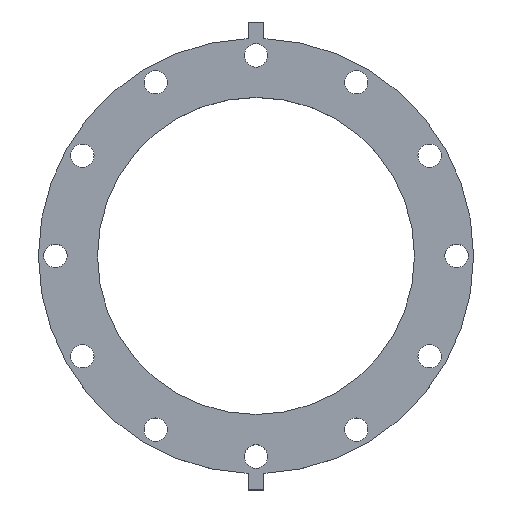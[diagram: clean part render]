
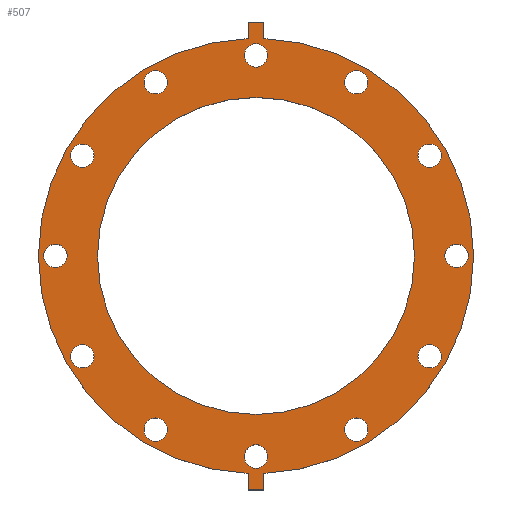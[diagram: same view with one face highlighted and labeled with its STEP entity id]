
A CAD part, top view. The second image highlights one B-rep face of the part: STEP entity #507.
In plain terms, the highlighted planar face has unit normal (0, 0, 1).
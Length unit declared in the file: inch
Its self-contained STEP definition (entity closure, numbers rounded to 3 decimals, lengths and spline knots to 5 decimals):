
#14=FACE_BOUND('',#93,.T.);
#15=FACE_BOUND('',#94,.T.);
#16=FACE_BOUND('',#95,.T.);
#17=FACE_BOUND('',#96,.T.);
#18=FACE_BOUND('',#97,.T.);
#19=FACE_BOUND('',#98,.T.);
#20=FACE_BOUND('',#99,.T.);
#21=FACE_BOUND('',#100,.T.);
#22=FACE_BOUND('',#101,.T.);
#23=FACE_BOUND('',#102,.T.);
#24=FACE_BOUND('',#103,.T.);
#25=FACE_BOUND('',#104,.T.);
#26=FACE_BOUND('',#105,.T.);
#46=PLANE('',#580);
#69=FACE_OUTER_BOUND('',#92,.T.);
#92=EDGE_LOOP('',(#405,#406,#407,#408,#409,#410,#411,#412));
#93=EDGE_LOOP('',(#413));
#94=EDGE_LOOP('',(#414));
#95=EDGE_LOOP('',(#415));
#96=EDGE_LOOP('',(#416));
#97=EDGE_LOOP('',(#417));
#98=EDGE_LOOP('',(#418));
#99=EDGE_LOOP('',(#419));
#100=EDGE_LOOP('',(#420));
#101=EDGE_LOOP('',(#421));
#102=EDGE_LOOP('',(#422));
#103=EDGE_LOOP('',(#423));
#104=EDGE_LOOP('',(#424));
#105=EDGE_LOOP('',(#425));
#139=LINE('',#825,#172);
#141=LINE('',#830,#174);
#144=LINE('',#834,#177);
#147=LINE('',#842,#180);
#150=LINE('',#846,#183);
#152=LINE('',#849,#185);
#172=VECTOR('',#695,0.3937);
#174=VECTOR('',#699,0.3937);
#177=VECTOR('',#704,0.3937);
#180=VECTOR('',#709,0.3937);
#183=VECTOR('',#714,0.3937);
#185=VECTOR('',#718,0.3937);
#186=CIRCLE('',#530,0.47);
#188=CIRCLE('',#533,0.47);
#190=CIRCLE('',#536,0.47);
#192=CIRCLE('',#539,0.47);
#194=CIRCLE('',#542,0.47);
#196=CIRCLE('',#545,0.47);
#198=CIRCLE('',#548,0.47);
#200=CIRCLE('',#551,0.47);
#202=CIRCLE('',#554,0.47);
#204=CIRCLE('',#557,0.47);
#206=CIRCLE('',#560,0.47);
#208=CIRCLE('',#563,0.47);
#211=CIRCLE('',#567,6.375);
#213=CIRCLE('',#570,8.75);
#214=CIRCLE('',#572,8.75);
#216=VERTEX_POINT('',#725);
#218=VERTEX_POINT('',#731);
#220=VERTEX_POINT('',#737);
#222=VERTEX_POINT('',#743);
#224=VERTEX_POINT('',#749);
#226=VERTEX_POINT('',#755);
#228=VERTEX_POINT('',#761);
#230=VERTEX_POINT('',#767);
#232=VERTEX_POINT('',#773);
#234=VERTEX_POINT('',#779);
#236=VERTEX_POINT('',#785);
#238=VERTEX_POINT('',#791);
#241=VERTEX_POINT('',#799);
#243=VERTEX_POINT('',#804);
#245=VERTEX_POINT('',#808);
#247=VERTEX_POINT('',#813);
#248=VERTEX_POINT('',#815);
#251=VERTEX_POINT('',#823);
#253=VERTEX_POINT('',#829);
#256=VERTEX_POINT('',#839);
#257=VERTEX_POINT('',#841);
#258=EDGE_CURVE('',#216,#216,#186,.T.);
#261=EDGE_CURVE('',#218,#218,#188,.T.);
#264=EDGE_CURVE('',#220,#220,#190,.T.);
#267=EDGE_CURVE('',#222,#222,#192,.T.);
#270=EDGE_CURVE('',#224,#224,#194,.T.);
#273=EDGE_CURVE('',#226,#226,#196,.T.);
#276=EDGE_CURVE('',#228,#228,#198,.T.);
#279=EDGE_CURVE('',#230,#230,#200,.T.);
#282=EDGE_CURVE('',#232,#232,#202,.T.);
#285=EDGE_CURVE('',#234,#234,#204,.T.);
#288=EDGE_CURVE('',#236,#236,#206,.T.);
#291=EDGE_CURVE('',#238,#238,#208,.T.);
#296=EDGE_CURVE('',#241,#241,#211,.T.);
#300=EDGE_CURVE('',#243,#245,#213,.T.);
#302=EDGE_CURVE('',#248,#247,#214,.T.);
#307=EDGE_CURVE('',#245,#251,#139,.T.);
#309=EDGE_CURVE('',#253,#248,#141,.T.);
#312=EDGE_CURVE('',#251,#253,#144,.T.);
#315=EDGE_CURVE('',#257,#256,#147,.T.);
#318=EDGE_CURVE('',#247,#257,#150,.T.);
#320=EDGE_CURVE('',#256,#243,#152,.T.);
#405=ORIENTED_EDGE('',*,*,#320,.T.);
#406=ORIENTED_EDGE('',*,*,#300,.T.);
#407=ORIENTED_EDGE('',*,*,#307,.T.);
#408=ORIENTED_EDGE('',*,*,#312,.T.);
#409=ORIENTED_EDGE('',*,*,#309,.T.);
#410=ORIENTED_EDGE('',*,*,#302,.T.);
#411=ORIENTED_EDGE('',*,*,#318,.T.);
#412=ORIENTED_EDGE('',*,*,#315,.T.);
#413=ORIENTED_EDGE('',*,*,#258,.T.);
#414=ORIENTED_EDGE('',*,*,#261,.T.);
#415=ORIENTED_EDGE('',*,*,#264,.T.);
#416=ORIENTED_EDGE('',*,*,#267,.T.);
#417=ORIENTED_EDGE('',*,*,#270,.T.);
#418=ORIENTED_EDGE('',*,*,#273,.T.);
#419=ORIENTED_EDGE('',*,*,#276,.T.);
#420=ORIENTED_EDGE('',*,*,#279,.T.);
#421=ORIENTED_EDGE('',*,*,#282,.T.);
#422=ORIENTED_EDGE('',*,*,#285,.T.);
#423=ORIENTED_EDGE('',*,*,#288,.T.);
#424=ORIENTED_EDGE('',*,*,#291,.T.);
#425=ORIENTED_EDGE('',*,*,#296,.T.);
#507=ADVANCED_FACE('',(#69,#14,#15,#16,#17,#18,#19,#20,#21,#22,#23,#24,
#25,#26),#46,.T.);
#530=AXIS2_PLACEMENT_3D('',#726,#586,#587);
#533=AXIS2_PLACEMENT_3D('',#732,#593,#594);
#536=AXIS2_PLACEMENT_3D('',#738,#600,#601);
#539=AXIS2_PLACEMENT_3D('',#744,#607,#608);
#542=AXIS2_PLACEMENT_3D('',#750,#614,#615);
#545=AXIS2_PLACEMENT_3D('',#756,#621,#622);
#548=AXIS2_PLACEMENT_3D('',#762,#628,#629);
#551=AXIS2_PLACEMENT_3D('',#768,#635,#636);
#554=AXIS2_PLACEMENT_3D('',#774,#642,#643);
#557=AXIS2_PLACEMENT_3D('',#780,#649,#650);
#560=AXIS2_PLACEMENT_3D('',#786,#656,#657);
#563=AXIS2_PLACEMENT_3D('',#792,#663,#664);
#567=AXIS2_PLACEMENT_3D('',#801,#673,#674);
#570=AXIS2_PLACEMENT_3D('',#810,#681,#682);
#572=AXIS2_PLACEMENT_3D('',#816,#686,#687);
#580=AXIS2_PLACEMENT_3D('',#850,#719,#720);
#586=DIRECTION('center_axis',(0.,0.,-1.));
#587=DIRECTION('ref_axis',(-0.5,-0.866,0.));
#593=DIRECTION('center_axis',(0.,0.,-1.));
#594=DIRECTION('ref_axis',(-0.866,-0.5,0.));
#600=DIRECTION('center_axis',(0.,0.,-1.));
#601=DIRECTION('ref_axis',(-1.,0.,0.));
#607=DIRECTION('center_axis',(0.,0.,-1.));
#608=DIRECTION('ref_axis',(-0.866,0.5,0.));
#614=DIRECTION('center_axis',(0.,0.,-1.));
#615=DIRECTION('ref_axis',(-0.5,0.866,0.));
#621=DIRECTION('center_axis',(0.,0.,-1.));
#622=DIRECTION('ref_axis',(0.,1.,0.));
#628=DIRECTION('center_axis',(0.,0.,-1.));
#629=DIRECTION('ref_axis',(0.5,0.866,0.));
#635=DIRECTION('center_axis',(0.,0.,-1.));
#636=DIRECTION('ref_axis',(0.866,0.5,0.));
#642=DIRECTION('center_axis',(0.,0.,-1.));
#643=DIRECTION('ref_axis',(1.,0.,0.));
#649=DIRECTION('center_axis',(0.,0.,-1.));
#650=DIRECTION('ref_axis',(0.866,-0.5,0.));
#656=DIRECTION('center_axis',(0.,0.,-1.));
#657=DIRECTION('ref_axis',(0.5,-0.866,0.));
#663=DIRECTION('center_axis',(0.,0.,-1.));
#664=DIRECTION('ref_axis',(0.,-1.,0.));
#673=DIRECTION('center_axis',(0.,0.,-1.));
#674=DIRECTION('ref_axis',(0.,-1.,0.));
#681=DIRECTION('center_axis',(0.,0.,1.));
#682=DIRECTION('ref_axis',(0.,1.,0.));
#686=DIRECTION('center_axis',(0.,0.,1.));
#687=DIRECTION('ref_axis',(0.,1.,0.));
#695=DIRECTION('',(0.,-1.,0.));
#699=DIRECTION('',(0.,1.,0.));
#704=DIRECTION('',(1.,0.,0.));
#709=DIRECTION('',(-1.,0.,0.));
#714=DIRECTION('',(0.,1.,0.));
#718=DIRECTION('',(0.,-1.,0.));
#719=DIRECTION('center_axis',(0.,0.,1.));
#720=DIRECTION('ref_axis',(0.,1.,0.));
#725=CARTESIAN_POINT('',(-6.74949,4.43953,1.25));
#726=CARTESIAN_POINT('Origin',(-6.98449,4.0325,1.25));
#731=CARTESIAN_POINT('',(-3.62547,7.21949,1.25));
#732=CARTESIAN_POINT('Origin',(-4.0325,6.98449,1.25));
#737=CARTESIAN_POINT('',(0.47,8.065,1.25));
#738=CARTESIAN_POINT('Origin',(0.,8.065,1.25));
#743=CARTESIAN_POINT('',(4.43953,6.74949,1.25));
#744=CARTESIAN_POINT('Origin',(4.0325,6.98449,1.25));
#749=CARTESIAN_POINT('',(7.21949,3.62547,1.25));
#750=CARTESIAN_POINT('Origin',(6.98449,4.0325,1.25));
#755=CARTESIAN_POINT('',(8.065,-0.47,1.25));
#756=CARTESIAN_POINT('Origin',(8.065,0.,1.25));
#761=CARTESIAN_POINT('',(6.74949,-4.43953,1.25));
#762=CARTESIAN_POINT('Origin',(6.98449,-4.0325,1.25));
#767=CARTESIAN_POINT('',(3.62547,-7.21949,1.25));
#768=CARTESIAN_POINT('Origin',(4.0325,-6.98449,1.25));
#773=CARTESIAN_POINT('',(-0.47,-8.065,1.25));
#774=CARTESIAN_POINT('Origin',(0.,-8.065,1.25));
#779=CARTESIAN_POINT('',(-4.43953,-6.74949,1.25));
#780=CARTESIAN_POINT('Origin',(-4.0325,-6.98449,1.25));
#785=CARTESIAN_POINT('',(-7.21949,-3.62547,1.25));
#786=CARTESIAN_POINT('Origin',(-6.98449,-4.0325,1.25));
#791=CARTESIAN_POINT('',(-8.065,0.47,1.25));
#792=CARTESIAN_POINT('Origin',(-8.065,0.,1.25));
#799=CARTESIAN_POINT('',(0.,6.375,1.25));
#801=CARTESIAN_POINT('Origin',(0.,0.,1.25));
#804=CARTESIAN_POINT('',(-0.32,8.74415,1.25));
#808=CARTESIAN_POINT('',(-0.32,-8.74415,1.25));
#810=CARTESIAN_POINT('Origin',(0.,0.,1.25));
#813=CARTESIAN_POINT('',(0.32,8.74415,1.25));
#815=CARTESIAN_POINT('',(0.32,-8.74415,1.25));
#816=CARTESIAN_POINT('Origin',(0.,0.,1.25));
#823=CARTESIAN_POINT('',(-0.32,-9.41,1.25));
#825=CARTESIAN_POINT('',(-0.32,-8.74415,1.25));
#829=CARTESIAN_POINT('',(0.32,-9.41,1.25));
#830=CARTESIAN_POINT('',(0.32,-9.41,1.25));
#834=CARTESIAN_POINT('',(-0.32,-9.41,1.25));
#839=CARTESIAN_POINT('',(-0.32,9.41,1.25));
#841=CARTESIAN_POINT('',(0.32,9.41,1.25));
#842=CARTESIAN_POINT('',(0.32,9.41,1.25));
#846=CARTESIAN_POINT('',(0.32,8.74415,1.25));
#849=CARTESIAN_POINT('',(-0.32,9.41,1.25));
#850=CARTESIAN_POINT('Origin',(0.,9.09955,1.25));
